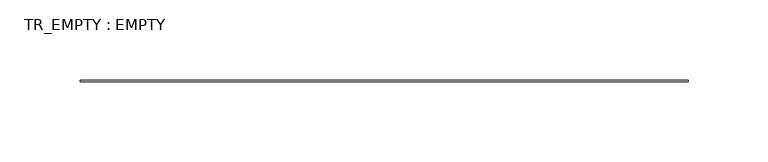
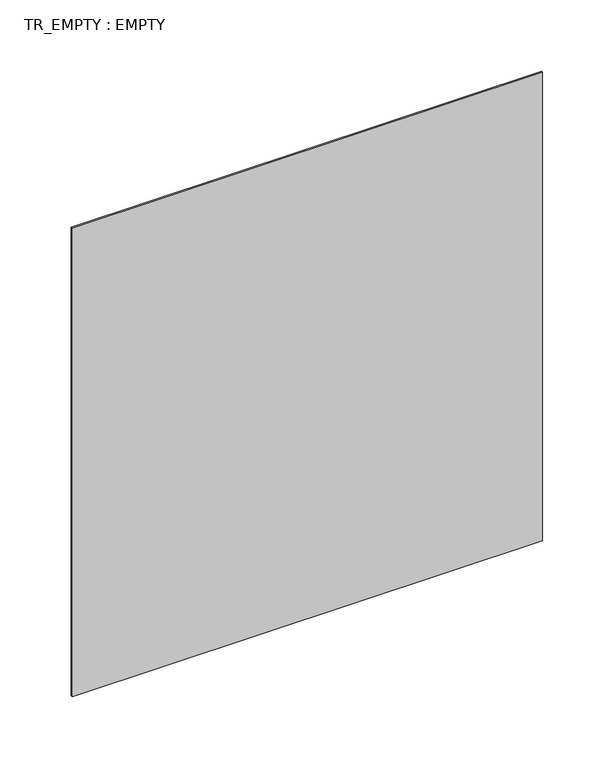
"""IFC4 building model written with IfcOpenShell, lengths in millimetres: plate geometry, TR_EMPTY : EMPTY."""

from ifc_helpers import new_model, si_unit, frame, origin, place, context, project, spatial, polyline, outline, extrude, source, transform, mapped, element, save


def tr_empty_empty_7661b975(model_context):
    return source(origin(), model_context, "Body", "SweptSolid", [
        extrude(outline(polyline([(190.0, -31.0), (-190.0, -31.0), (-190.0, -30.0), (190.0, -30.0), (190.0, -31.0)])), frame((0.0, 0.0, 50.0), z_axis=(0.0, 0.0, 1.0), x_axis=(1.0, 0.0, 0.0)), (0.0, 0.0, 1.0), 400.0),
    ])


if __name__ == "__main__":
    model = new_model("IFC4")
    model_context = context("Model", 3, world=origin())
    ifc_project = project(units=[si_unit("LENGTHUNIT", "METRE", prefix="MILLI")], contexts=[model_context])
    site = spatial("IfcSite", under=ifc_project)
    building = spatial("IfcBuilding", under=site)
    placement = place(None, origin())
    tr_empty_empty_shape = tr_empty_empty_7661b975(model_context)
    element("IfcPlate", 1, ObjectType="TR_EMPTY : EMPTY", at=placement, inside=building, context=model_context, shape_type="MappedRepresentation", body=[
        mapped(tr_empty_empty_shape, transform((0.0, 0.0, 0.0), x_axis=(1.0, 0.0, 0.0), y_axis=(0.0, 1.0, 0.0), z_axis=(0.0, 0.0, 1.0))),
    ])
    save(model, "model.ifc")
